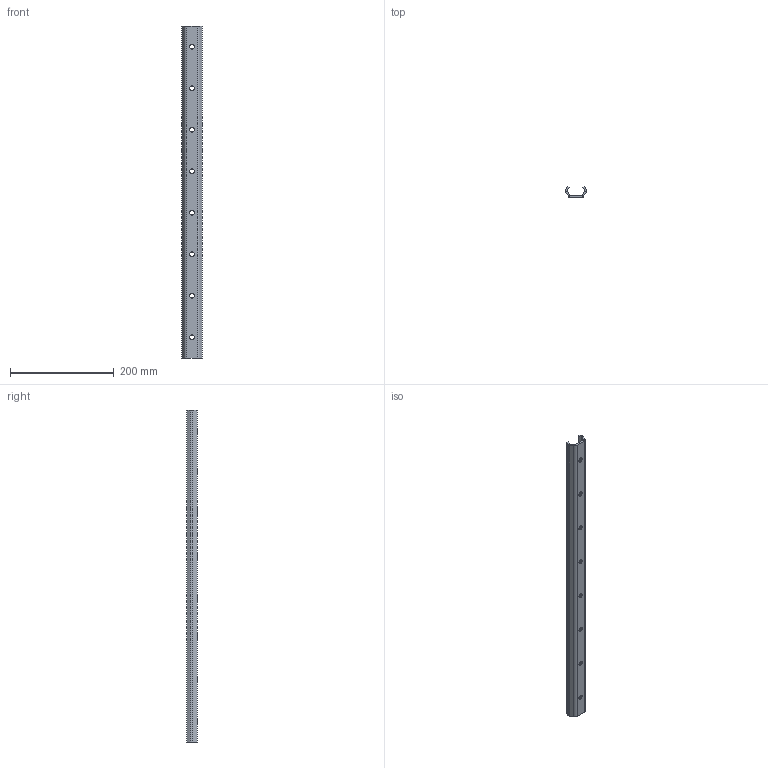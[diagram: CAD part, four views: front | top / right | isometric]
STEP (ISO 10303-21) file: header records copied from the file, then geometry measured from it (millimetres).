
FILE_DESCRIPTION(('STEP AP214'),'1');
FILE_NAME('rail_tex40-640.stp','2019-03-08T08:32:55',('TraceParts'),('TraceParts S.A.'),'Spatial InterOp 3D',' ',' ');
FILE_SCHEMA(('automotive_design'));
Length unit declared in the file: millimetre
Products named in the file (1): rail_tex40-640
Bounding box: 39.53 x 21 x 640 mm (x, y, z)
Volume: 125133.4 mm3; surface area: 88441.5 mm2
Topology: 1 solids, 1 shells, 156 faces, 408 edges, 272 vertices
Faces by surface type: plane 106, cylinder 28, bspline 22
Entity records: 9433 total; most frequent: CARTESIAN_POINT 4371, ORIENTED_EDGE 816, DIRECTION 690, EDGE_CURVE 408, LINE 308, VECTOR 308, VERTEX_POINT 272, AXIS2_PLACEMENT_3D 191
